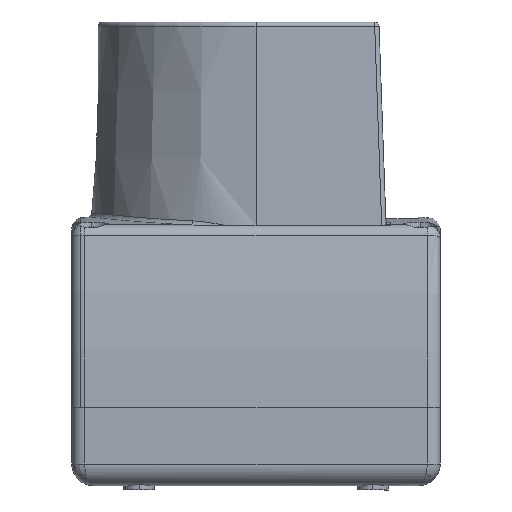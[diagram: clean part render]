
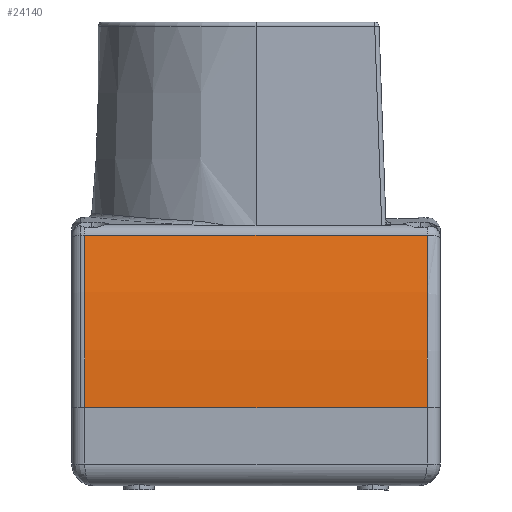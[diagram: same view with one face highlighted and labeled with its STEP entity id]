
A CAD part, left-side view. The second image highlights one B-rep face of the part: STEP entity #24140.
In plain terms, the highlighted cylindrical face has radius 200 mm (diameter 400 mm), a partial arc.
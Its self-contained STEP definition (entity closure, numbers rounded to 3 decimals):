
#499 = CARTESIAN_POINT ( 'NONE',  ( -9., 1.5, -38.75 ) ) ;
#1999 = AXIS2_PLACEMENT_3D ( 'NONE', #24520, #11714, #26653 ) ;
#2132 = DIRECTION ( 'NONE',  ( 0., -1., 0. ) ) ;
#2887 = ORIENTED_EDGE ( 'NONE', *, *, #24599, .T. ) ;
#3046 = EDGE_CURVE ( 'NONE', #6553, #10742, #19730, .T. ) ;
#5140 = ORIENTED_EDGE ( 'NONE', *, *, #3046, .T. ) ;
#5593 = VERTEX_POINT ( 'NONE', #26377 ) ;
#5946 = AXIS2_PLACEMENT_3D ( 'NONE', #9493, #24447, #20616 ) ;
#6553 = VERTEX_POINT ( 'NONE', #18828 ) ;
#6873 = EDGE_LOOP ( 'NONE', ( #24661, #2887, #26464, #5140 ) ) ;
#7669 = DIRECTION ( 'NONE',  ( 0., -1., 0. ) ) ;
#7841 = VECTOR ( 'NONE', #10433, 1000. ) ;
#8276 = AXIS2_PLACEMENT_3D ( 'NONE', #15066, #2132, #17203 ) ;
#8513 = LINE ( 'NONE', #27320, #7841 ) ;
#8870 = CYLINDRICAL_SURFACE ( 'NONE', #5946, 200. ) ;
#9493 = CARTESIAN_POINT ( 'NONE',  ( 191., 4.5, -38.75 ) ) ;
#10433 = DIRECTION ( 'NONE',  ( 0., -1., 0. ) ) ;
#10499 = CIRCLE ( 'NONE', #1999, 200. ) ;
#10742 = VERTEX_POINT ( 'NONE', #499 ) ;
#11048 = LINE ( 'NONE', #22645, #16714 ) ;
#11714 = DIRECTION ( 'NONE',  ( 0., 1., 0. ) ) ;
#11974 = CARTESIAN_POINT ( 'NONE',  ( -5.006, -77.5, 1.019 ) ) ;
#15066 = CARTESIAN_POINT ( 'NONE',  ( 191., 1.5, -38.75 ) ) ;
#16714 = VECTOR ( 'NONE', #7669, 1000. ) ;
#17203 = DIRECTION ( 'NONE',  ( -1., 0., 0. ) ) ;
#18447 = EDGE_CURVE ( 'NONE', #6553, #27087, #8513, .T. ) ;
#18828 = CARTESIAN_POINT ( 'NONE',  ( -5.006, 1.5, 1.019 ) ) ;
#19240 = FACE_OUTER_BOUND ( 'NONE', #6873, .T. ) ;
#19252 = EDGE_CURVE ( 'NONE', #10742, #5593, #11048, .T. ) ;
#19730 = CIRCLE ( 'NONE', #8276, 200. ) ;
#20616 = DIRECTION ( 'NONE',  ( 1., 0., 0. ) ) ;
#22645 = CARTESIAN_POINT ( 'NONE',  ( -9., 4.5, -38.75 ) ) ;
#24140 = ADVANCED_FACE ( 'NONE', ( #19240 ), #8870, .T. ) ;
#24447 = DIRECTION ( 'NONE',  ( 0., -1., 0. ) ) ;
#24520 = CARTESIAN_POINT ( 'NONE',  ( 191., -77.5, -38.75 ) ) ;
#24599 = EDGE_CURVE ( 'NONE', #5593, #27087, #10499, .T. ) ;
#24661 = ORIENTED_EDGE ( 'NONE', *, *, #19252, .T. ) ;
#26377 = CARTESIAN_POINT ( 'NONE',  ( -9., -77.5, -38.75 ) ) ;
#26464 = ORIENTED_EDGE ( 'NONE', *, *, #18447, .F. ) ;
#26653 = DIRECTION ( 'NONE',  ( -1., 0., 0. ) ) ;
#27087 = VERTEX_POINT ( 'NONE', #11974 ) ;
#27320 = CARTESIAN_POINT ( 'NONE',  ( -5.006, 4.5, 1.019 ) ) ;
